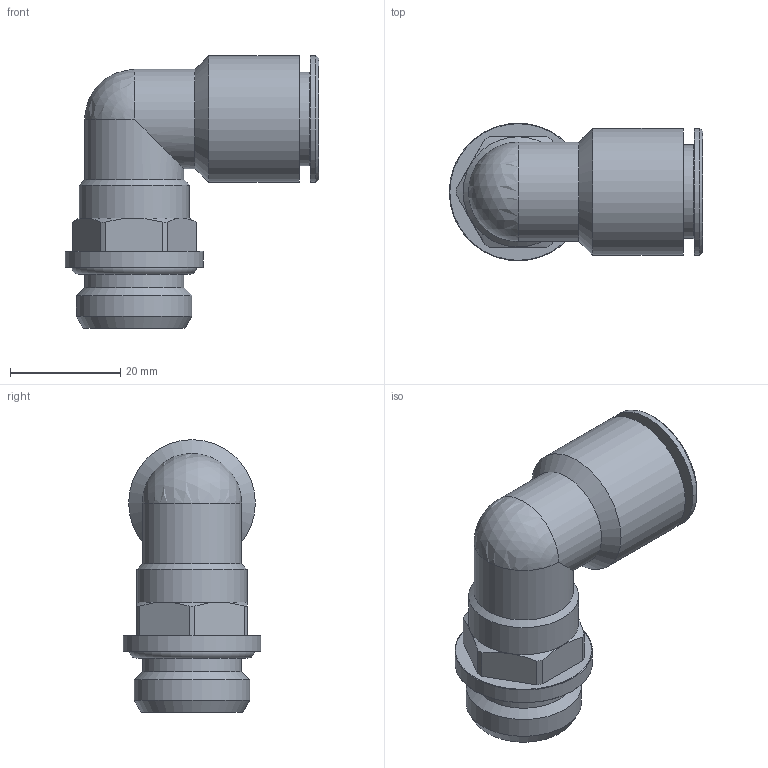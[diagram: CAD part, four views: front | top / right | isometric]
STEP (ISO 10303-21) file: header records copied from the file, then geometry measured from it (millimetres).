
FILE_DESCRIPTION(/* description */ (''),/* implementation_level */ '2;1');
FILE_NAME(/* name */ 'V202265_IPSO022_16_G12_28.06.16',/* time_stamp */ '2016-06-28T09:12:48+02:00',/* author */ (''),/* organization */ (''),/* preprocessor_version */ 'ST-DEVELOPER v16.5',/* originating_system */ 'HiCAD 2016 2101.0 Build 254',/* authorisation */ '');
FILE_SCHEMA (('AUTOMOTIVE_DESIGN { 1 0 10303 214 1 1 1 1 }'));
Length unit declared in the file: millimetre
Products named in the file (5): Root; R202265; DR16; 214608; OR 17.12X2.62
Assembly tree (4 placements, depth 2):
  Root
    R202265
    DR16
    214608
    OR 17.12X2.62
Bounding box: 46 x 25 x 49.5 mm (x, y, z)
Volume: 10491.2 mm3; surface area: 12243.1 mm2
Topology: 4 solids, 4 shells, 82 faces, 177 edges, 107 vertices
Faces by surface type: cylinder 29, cone 23, plane 22, torus 6, sphere 2
Full cylindrical faces by diameter (mm): 11 x1, 12 x1, 13 x1, 14.5 x1, 15.8 x2, 16.2 x2, 17 x3, 17.2 x1, 18 x3, 20 x1, 20.2 x1, 20.4 x1, 20.955 x1, 21.2 x1, 23 x2, 25 x1
Entity records: 3444 total; most frequent: CARTESIAN_POINT 658, DIRECTION 384, PRESENTATION_STYLE_ASSIGNMENT 228, COLOUR_RGB 226, DRAUGHTING_PRE_DEFINED_CURVE_FONT 224, CURVE_STYLE 224, OVER_RIDING_STYLED_ITEM 224, ORIENTED_EDGE 224
